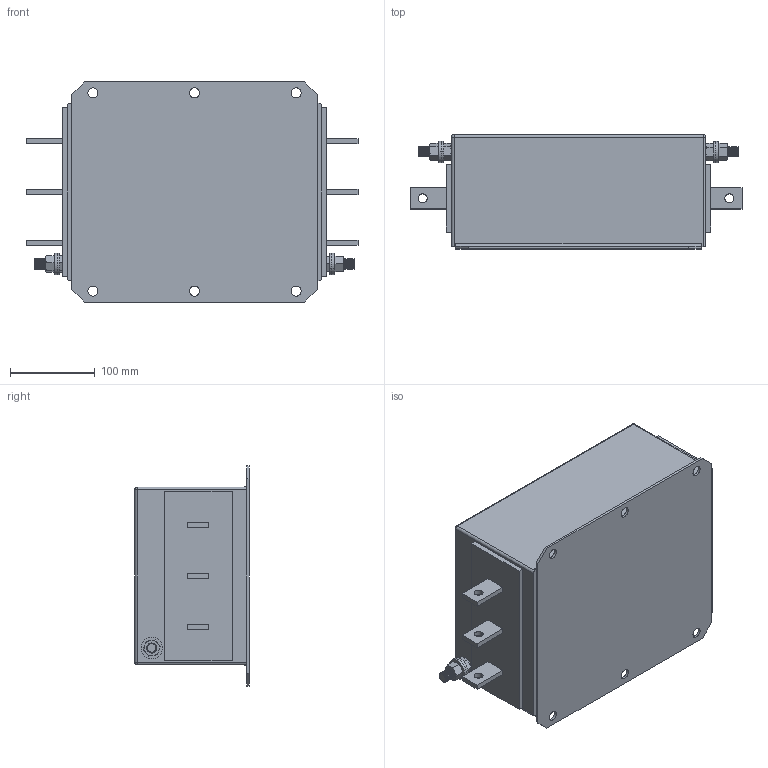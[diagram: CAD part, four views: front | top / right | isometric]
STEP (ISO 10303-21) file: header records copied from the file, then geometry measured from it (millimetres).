
FILE_DESCRIPTION (( 'STEP AP203' ), '1' );
FILE_NAME ('NF-DAR-300-3.STEP', '2018-09-21T10:43:02', ( '' ), ( '' ), 'SwSTEP 2.0', 'SolidWorks 2017', '' );
FILE_SCHEMA (( 'CONFIG_CONTROL_DESIGN' ));
Length unit declared in the file: millimetre
Products named in the file (6): NF-DAR-300-3; hex screw_am_B18.6.7M - M12 x 1.75 x 30 Indented HHMS --30S; hex nut style 1_am_B18.2.4.1M - Hex nut, Style 1,  M12 x 1.75 --D-N; flat washer narrow_am_B18.22M - Plain washer, 12 mm, narrow; M12x30 Earth post; FNR-3
Assembly tree (7 placements, depth 3):
  NF-DAR-300-3
    FNR-3
    M12x30 Earth post  x2
      flat washer narrow_am_B18.22M - Plain washer, 12 mm, narrow
      hex nut style 1_am_B18.2.4.1M - Hex nut, Style 1,  M12 x 1.75 --D-N
      hex screw_am_B18.6.7M - M12 x 1.75 x 30 Indented HHMS --30S
Bounding box: 392 x 135 x 260 mm (x, y, z)
Volume: 8746423 mm3; surface area: 334291.3 mm2
Topology: 9 solids, 9 shells, 438 faces, 1088 edges, 680 vertices
Faces by surface type: cone 184, cylinder 144, plane 106, sphere 4
Entity records: 8910 total; most frequent: CARTESIAN_POINT 1573, DIRECTION 1496, ORIENTED_EDGE 1336, EDGE_CURVE 668, AXIS2_PLACEMENT_3D 585, VERTEX_POINT 422, LINE 326, VECTOR 326
